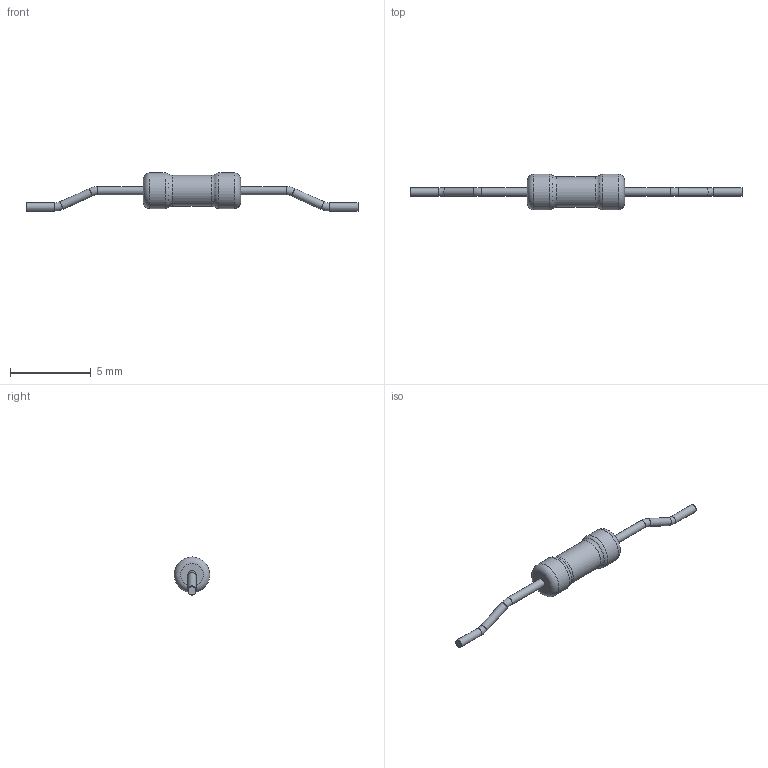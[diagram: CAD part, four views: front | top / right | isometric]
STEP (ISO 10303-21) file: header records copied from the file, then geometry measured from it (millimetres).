
FILE_DESCRIPTION(('STEP AP203'), '1');
FILE_NAME('R1-72-0.5M(3)', '', ('UNSPECIFIED'), ('UNSPECIFIED'), 'ASCON STEP Converter 1.6', 'ASCON Math Kernel', '');
FILE_SCHEMA(('CONFIG_CONTROL_DESIGN'));
Length unit declared in the file: millimetre
Bounding box: 20.5 x 2.2 x 2.35 mm (x, y, z)
Volume: 22.5 mm3; surface area: 67.7 mm2
Topology: 1 solids, 1 shells, 23 faces, 41 edges, 22 vertices
Faces by surface type: torus 10, cylinder 9, plane 4
Full cylindrical faces by diameter (mm): 0.5 x6, 1.9 x1, 2.2 x2
Entity records: 682 total; most frequent: DIRECTION 92, CARTESIAN_POINT 68, AXIS2_PLACEMENT_3D 46, EDGE_LOOP 44, ORIENTED_EDGE 44, FACE_OUTER_BOUND 38, COLOUR_RGB 24, FILL_AREA_STYLE_COLOUR 24
